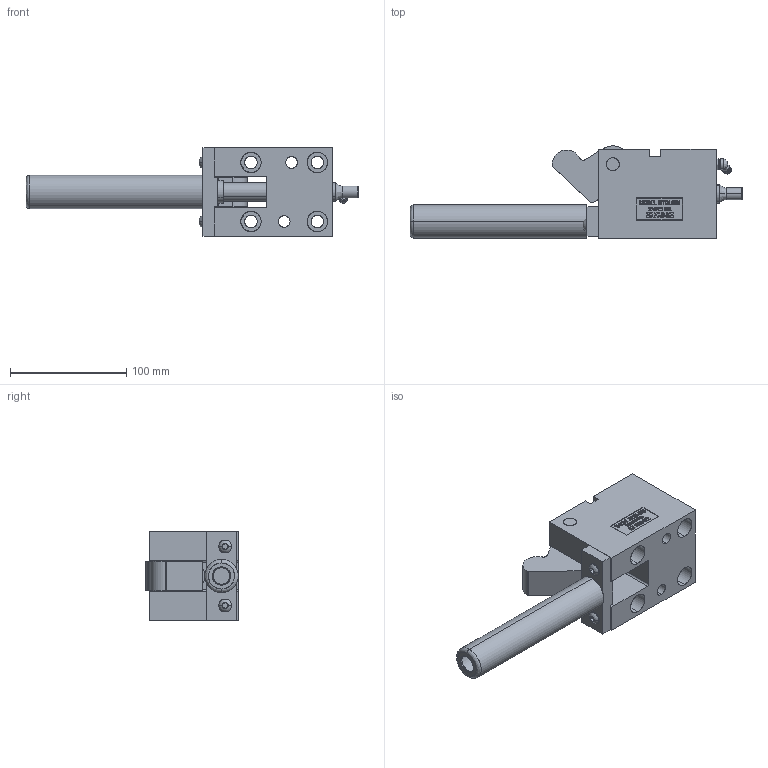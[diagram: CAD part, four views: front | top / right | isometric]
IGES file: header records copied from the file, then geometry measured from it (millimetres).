
Start section: SolidWorks IGES file using analytic representation for surfaces
Global section: file name: Y:\METRIC With OFFSETRIGGER\TOPMOUNT\MTOL62545\OPEN\MTOL62545-O.IGS; native system: SolidWorks 2006 by SolidWorks Corporation; preprocessor: SolidWorks 2006 by SolidWorks Corporation; author: Jim; date: 090120.183159; units: inch
Bounding box: 285.62 x 79.37 x 76.2 mm (x, y, z)
Surface area: 122695.7 mm2 (no closed solid volume)
Topology: 0 solids, 0 shells, 610 faces, 7427 edges, 7423 vertices
Faces by surface type: bspline 484, revolution 126
